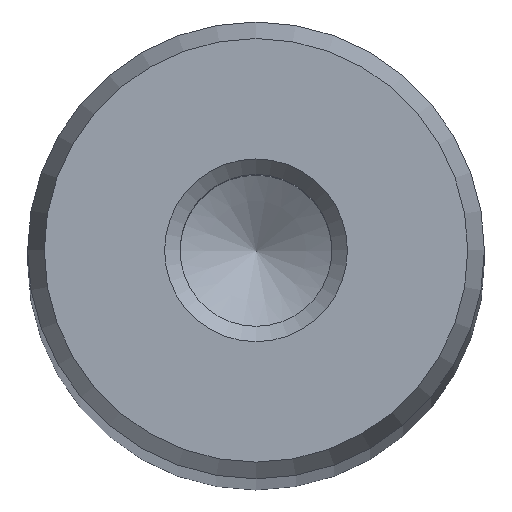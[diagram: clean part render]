
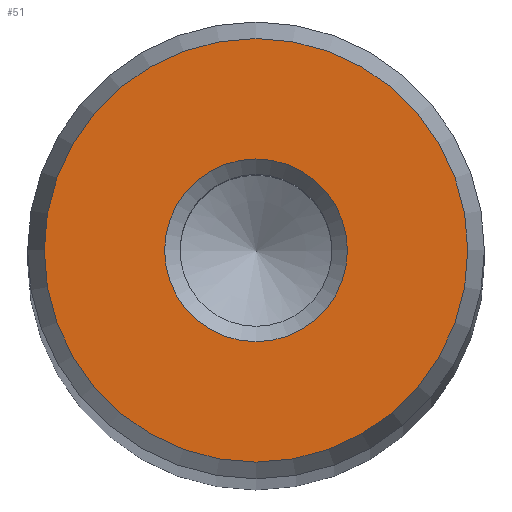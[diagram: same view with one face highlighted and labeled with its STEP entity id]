
A CAD part, top view. The second image highlights one B-rep face of the part: STEP entity #51.
In plain terms, the highlighted planar face has unit normal (0, 0, 1).
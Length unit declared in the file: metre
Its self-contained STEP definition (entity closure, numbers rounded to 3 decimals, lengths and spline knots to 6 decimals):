
#51 = ADVANCED_FACE( '', ( #108, #109 ), #110, .T. );
#108 = FACE_OUTER_BOUND( '', #167, .T. );
#109 = FACE_BOUND( '', #168, .T. );
#110 = PLANE( '', #169 );
#167 = EDGE_LOOP( '', ( #234 ) );
#168 = EDGE_LOOP( '', ( #235 ) );
#169 = AXIS2_PLACEMENT_3D( '', #236, #237, #238 );
#234 = ORIENTED_EDGE( '', *, *, #271, .T. );
#235 = ORIENTED_EDGE( '', *, *, #289, .T. );
#236 = CARTESIAN_POINT( '', ( 0., 0., 0.282 ) );
#237 = DIRECTION( '', ( 0., 0., 1. ) );
#238 = DIRECTION( '', ( 1., 0., 0. ) );
#271 = EDGE_CURVE( '', #299, #299, #300, .T. );
#289 = EDGE_CURVE( '', #326, #326, #327, .T. );
#299 = VERTEX_POINT( '', #336 );
#300 = CIRCLE( '', #337, 0.009272 );
#326 = VERTEX_POINT( '', #363 );
#327 = CIRCLE( '', #364, 0.004 );
#336 = CARTESIAN_POINT( '', ( 0.009272, 0., 0.282 ) );
#337 = AXIS2_PLACEMENT_3D( '', #373, #374, #375 );
#363 = CARTESIAN_POINT( '', ( 0.004, 0., 0.282 ) );
#364 = AXIS2_PLACEMENT_3D( '', #403, #404, #405 );
#373 = CARTESIAN_POINT( '', ( 0., 0., 0.282 ) );
#374 = DIRECTION( '', ( 0., 0., 1. ) );
#375 = DIRECTION( '', ( 1., 0., 0. ) );
#403 = CARTESIAN_POINT( '', ( 0., 0., 0.282 ) );
#404 = DIRECTION( '', ( 0., 0., -1. ) );
#405 = DIRECTION( '', ( 1., 0., 0. ) );
